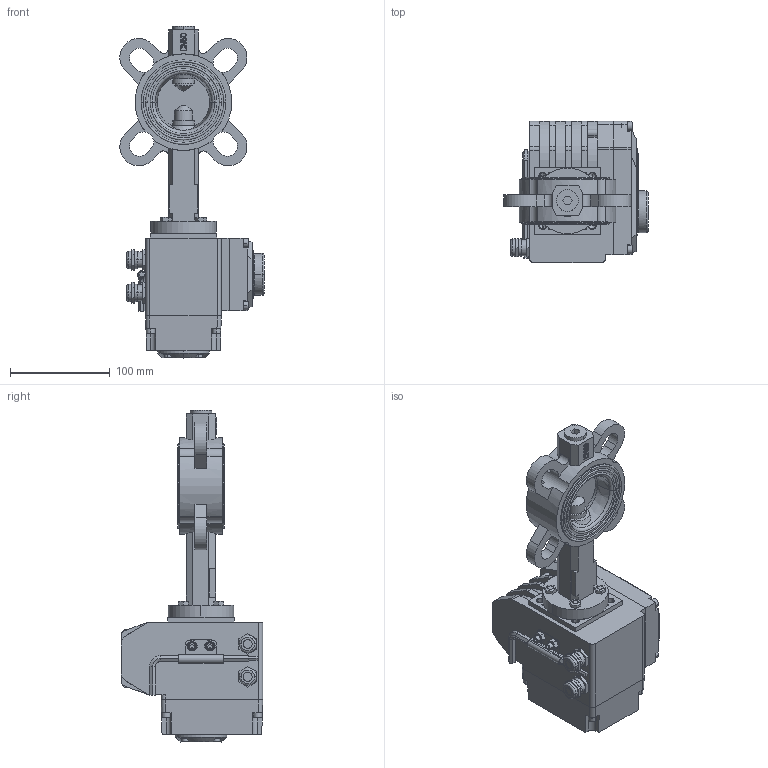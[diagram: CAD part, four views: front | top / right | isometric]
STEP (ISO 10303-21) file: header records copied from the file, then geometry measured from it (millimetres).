
FILE_DESCRIPTION((''),'2;1');
FILE_NAME('VBS_111_EAR_T_ASM','2025-02-25T',('USER'),(''),'PRO/ENGINEER BY PARAMETRIC TECHNOLOGY CORPORATION, 2011220','PRO/ENGINEER BY PARAMETRIC TECHNOLOGY CORPORATION, 2011220','');
FILE_SCHEMA(('CONFIG_CONTROL_DESIGN'));
Length unit declared in the file: millimetre
Products named in the file (24): KORPUS; REZ; DISK; SHTIR_1; ZAGLUSHKA; O-RING; SHTIR_2; SHAIBA_RAZREZ; SHAIBA; KOLCO_22_GOST13943; VTULKA; MANZET_REZ; SB_ASM; B-7798-M6-20; DET_1; V-11738-M5; V-11738-M4; DET_2; KREPLENIE; KLUCH; DET_3; G-5915-M6; ELECTROPRIVOD_ASM; VBS_111_EAR_T_ASM
Assembly tree (43 placements, depth 3):
  VBS_111_EAR_T_ASM
    SB_ASM
      KORPUS
      REZ
      DISK
      SHTIR_1
      ZAGLUSHKA
      O-RING  x2
      SHTIR_2
      SHAIBA_RAZREZ
      SHAIBA  x2
      KOLCO_22_GOST13943
      VTULKA  x5
      MANZET_REZ
    B-7798-M6-20  x4
    ELECTROPRIVOD_ASM
      DET_1
      V-11738-M5  x8
      V-11738-M4  x4
      DET_2
      KREPLENIE
      KLUCH
      DET_3
      G-5915-M6  x2
Bounding box: 144.83 x 142 x 333.5 mm (x, y, z)
Volume: 1746958.1 mm3; surface area: 294455.8 mm2
Topology: 41 solids, 76 shells, 1586 faces, 4080 edges, 2675 vertices
Faces by surface type: plane 1014, cylinder 436, cone 98, torus 38
Entity records: 41594 total; most frequent: CARTESIAN_POINT 7785, DIRECTION 7074, ORIENTED_EDGE 6768, EDGE_CURVE 3428, VECTOR 2468, LINE 2468, AXIS2_PLACEMENT_3D 2303, VERTEX_POINT 2265
